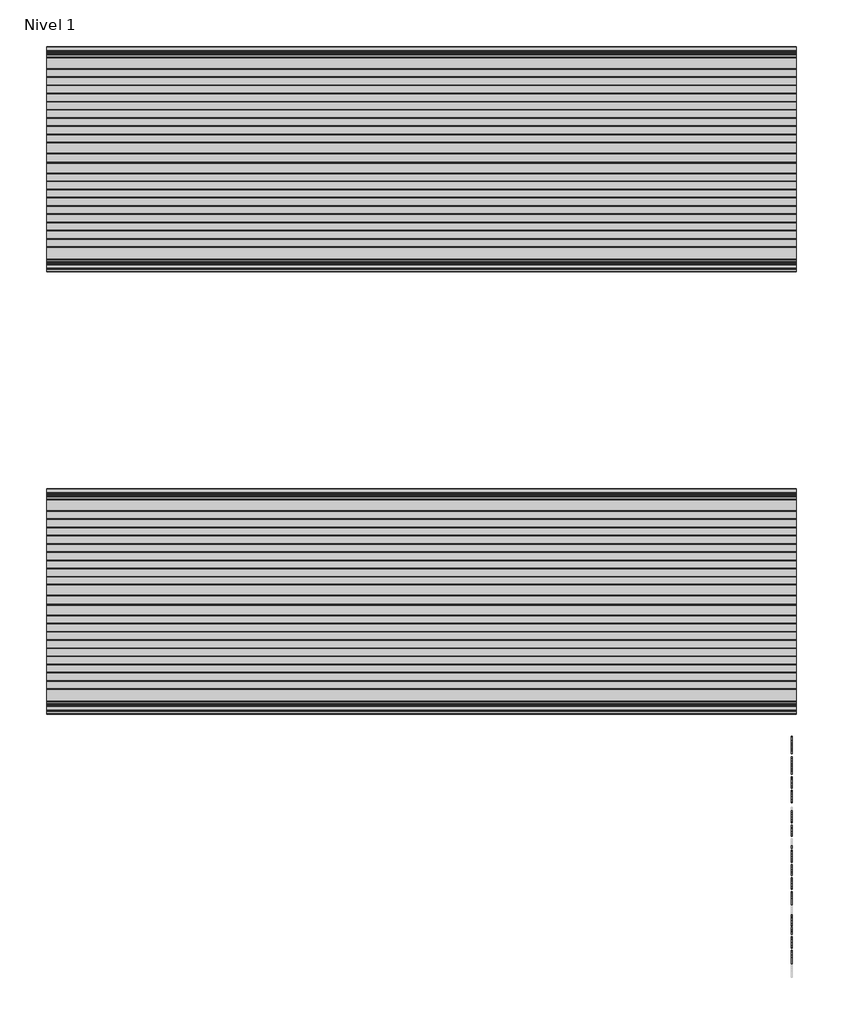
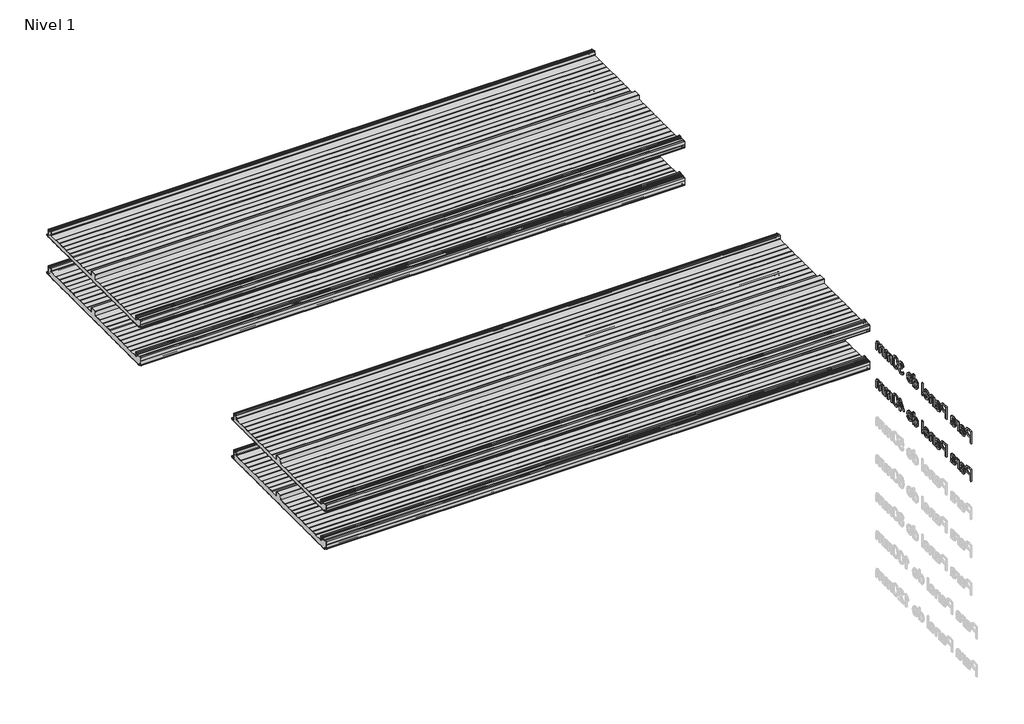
# One storey, part 1 of 3: 4 plates, 2 proxies.
"""IFC4 building model written with IfcOpenShell, lengths in millimetres."""

from ifc_helpers import new_model, si_unit, frame, origin, place, context, project, spatial, polyline, outline, extrude, transform, mapped, element, save
from components import plate_30_mm_228ccd44, plate_40_mm_992aaad9

model = new_model("IFC4")

# Units and contexts
model_context = context("Model", 3, world=origin())
ifc_project = project(units=[si_unit("LENGTHUNIT", "METRE", prefix="MILLI")], contexts=[model_context])

# Site, building, storey
site = spatial("IfcSite", under=ifc_project)
building = spatial("IfcBuilding", under=site)
storey = spatial("IfcBuildingStorey", under=building, Name="Nivel 1", Elevation=0.0)

# Proxies
placement = place(None, origin())
element("IfcBuildingElementProxy", 1, Name="100mm Arial", ObjectType="100mm Arial", at=placement, inside=storey, context=model_context, shape_type="SweptSolid", body=[
    extrude(outline(polyline([(14155.5279909, -67.141573), (14155.5279909, 13.2234751), (14185.3117173, 13.2234751), (14197.3193856, 12.4582805), (14207.0805212, 8.7009791), (14213.4080915, 0.9313114), (14215.801777, -10.026667), (14214.1855488, -19.4984021), (14209.3368641, -27.3906972), (14200.2697992, -32.7176285), (14185.9984303, -34.4932722), (14165.573622, -34.4932722), (14165.573622, -67.141573), (14155.5279909, -67.141573)]), holes=[polyline([(14165.573622, -24.4476412), (14186.5870415, -24.4476412), (14201.3808028, -20.7590111), (14205.756146, -10.3798337), (14203.176067, -2.0607955), (14196.3972281, 2.491131), (14186.351597, 3.1778441), (14165.573622, 3.1778441), (14165.573622, -24.4476412)])]), frame((9557.0230098, 0.0, 0.0), z_axis=(1.0, 0.0, 0.0), x_axis=(0.0, 1.0, 0.0)), (0.0, 0.0, 1.0), 5.0),
    extrude(outline(polyline([(14266.0299321, -59.6073498), (14256.2884169, -66.4156192), (14245.5266422, -68.3972769), (14230.9388949, -63.6295263), (14225.847408, -51.4452746), (14227.7702046, -43.4990235), (14232.8224507, -37.7306338), (14239.8563544, -34.4344111), (14248.5481797, -32.9236424), (14265.971071, -29.4704567), (14266.0299321, -27.2337342), (14263.2634595, -19.8172332), (14252.1583283, -16.913418), (14241.9949751, -18.8460247), (14237.1487429, -25.7033451), (14227.1031119, -24.4476412), (14231.4490246, -14.6374547), (14240.199711, -8.8886854), (14253.453273, -6.8677869), (14265.6277145, -8.6532409), (14272.5046552, -13.1364961), (14275.5850538, -19.9545758), (14276.0755631, -28.7445029), (14276.0755631, -41.2426806), (14276.5856928, -58.6950024), (14278.5869709, -67.141573), (14268.5413399, -67.141573), (14266.0299321, -59.6073498)]), holes=[polyline([(14266.0299321, -39.5160877), (14249.8235039, -42.5964863), (14241.1807296, -44.2249773), (14237.2664652, -46.8737276), (14235.8930391, -50.7389411), (14238.885146, -56.1737845), (14247.6652629, -58.3516459), (14257.8286162, -55.9481502), (14264.3818208, -50.1307096), (14265.971071, -42.3610418), (14266.0299321, -39.5160877)])]), frame((9557.0230098, 0.0, 0.0), z_axis=(1.0, 0.0, 0.0), x_axis=(0.0, 1.0, 0.0)), (0.0, 0.0, 1.0), 5.0),
    extrude(outline(polyline([(14289.8883058, -67.141573), (14289.8883058, -8.1234908), (14298.6782329, -8.1234908), (14298.6782329, -16.8545568), (14304.9175115, -8.8102039), (14311.1960309, -6.8677869), (14321.2809027, -9.9678059), (14317.9258189, -18.9735571), (14310.8624846, -16.913418), (14305.1823866, -18.8950756), (14301.5624277, -24.3887801), (14299.9339368, -36.1217632), (14299.9339368, -67.141573), (14289.8883058, -67.141573)])), frame((9557.0230098, 0.0, 0.0), z_axis=(1.0, 0.0, 0.0), x_axis=(0.0, 1.0, 0.0)), (0.0, 0.0, 1.0), 5.0),
    extrude(outline(polyline([(14365.2305384, -59.6073498), (14355.4890231, -66.4156192), (14344.7272485, -68.3972769), (14330.1395011, -63.6295263), (14325.0480143, -51.4452746), (14326.9708109, -43.4990235), (14332.023057, -37.7306338), (14339.0569607, -34.4344111), (14347.748786, -32.9236424), (14365.1716773, -29.4704567), (14365.2305384, -27.2337342), (14362.4640658, -19.8172332), (14351.3589346, -16.913418), (14341.1955814, -18.8460247), (14336.3493492, -25.7033451), (14326.3037182, -24.4476412), (14330.6496308, -14.6374547), (14339.4003172, -8.8886854), (14352.6538792, -6.8677869), (14364.8283207, -8.6532409), (14371.7052615, -13.1364961), (14374.7856601, -19.9545758), (14375.2761694, -28.7445029), (14375.2761694, -41.2426806), (14375.7862991, -58.6950024), (14377.7875772, -67.141573), (14367.7419461, -67.141573), (14365.2305384, -59.6073498)]), holes=[polyline([(14365.2305384, -39.5160877), (14349.0241102, -42.5964863), (14340.3813359, -44.2249773), (14336.4670715, -46.8737276), (14335.0936453, -50.7389411), (14338.0857522, -56.1737845), (14346.8658692, -58.3516459), (14357.0292224, -55.9481502), (14363.582427, -50.1307096), (14365.1716773, -42.3610418), (14365.2305384, -39.5160877)])]), frame((9557.0230098, 0.0, 0.0), z_axis=(1.0, 0.0, 0.0), x_axis=(0.0, 1.0, 0.0)), (0.0, 0.0, 1.0), 5.0),
    extrude(outline(polyline([(14421.7372128, -67.141573), (14421.7372128, 13.2234751), (14451.5209392, 13.2234751), (14463.5286075, 12.4582805), (14473.2897431, 8.7009791), (14479.6173134, 0.9313114), (14482.0109989, -10.026667), (14480.3947707, -19.4984021), (14475.546086, -27.3906972), (14466.4790211, -32.7176285), (14452.2076522, -34.4932722), (14431.7828439, -34.4932722), (14431.7828439, -67.141573), (14421.7372128, -67.141573)]), holes=[polyline([(14431.7828439, -24.4476412), (14452.7962634, -24.4476412), (14467.5900247, -20.7590111), (14471.9653679, -10.3798337), (14469.3852889, -2.0607955), (14462.60645, 2.491131), (14452.5608189, 3.1778441), (14431.7828439, 3.1778441), (14431.7828439, -24.4476412)])]), frame((9557.0230098, 0.0, 0.0), z_axis=(1.0, 0.0, 0.0), x_axis=(0.0, 1.0, 0.0)), (0.0, 0.0, 1.0), 5.0),
    extrude(outline(polyline([(14532.239154, -59.6073498), (14522.4976388, -66.4156192), (14511.7358641, -68.3972769), (14497.1481168, -63.6295263), (14492.0566299, -51.4452746), (14493.9794265, -43.4990235), (14499.0316726, -37.7306338), (14506.0655763, -34.4344111), (14514.7574016, -32.9236424), (14532.1802929, -29.4704567), (14532.239154, -27.2337342), (14529.4726814, -19.8172332), (14518.3675502, -16.913418), (14508.204197, -18.8460247), (14503.3579648, -25.7033451), (14493.3123338, -24.4476412), (14497.6582465, -14.6374547), (14506.4089329, -8.8886854), (14519.6624949, -6.8677869), (14531.8369364, -8.6532409), (14538.7138771, -13.1364961), (14541.7942757, -19.9545758), (14542.284785, -28.7445029), (14542.284785, -41.2426806), (14542.7949147, -58.6950024), (14544.7961928, -67.141573), (14534.7505618, -67.141573), (14532.239154, -59.6073498)]), holes=[polyline([(14532.239154, -39.5160877), (14516.0327258, -42.5964863), (14507.3899515, -44.2249773), (14503.4756871, -46.8737276), (14502.102261, -50.7389411), (14505.0943679, -56.1737845), (14513.8744848, -58.3516459), (14524.0378381, -55.9481502), (14530.5910427, -50.1307096), (14532.1802929, -42.3610418), (14532.239154, -39.5160877)])]), frame((9557.0230098, 0.0, 0.0), z_axis=(1.0, 0.0, 0.0), x_axis=(0.0, 1.0, 0.0)), (0.0, 0.0, 1.0), 5.0),
    extrude(outline(polyline([(14556.0975277, -67.141573), (14556.0975277, -8.1234908), (14566.1431587, -8.1234908), (14566.1431587, -16.3640475), (14573.8245347, -9.2418521), (14584.3116241, -6.8677869), (14593.7980745, -8.7807733), (14600.2727976, -13.8035888), (14603.2845249, -21.1906593), (14603.814275, -30.902744), (14603.814275, -67.141573), (14593.768644, -67.141573), (14593.768644, -32.2565497), (14592.611042, -23.3685207), (14588.5201942, -18.6694413), (14581.623633, -16.913418), (14570.7245158, -20.8571129), (14567.288498, -26.5715466), (14566.1431587, -35.8274576), (14566.1431587, -67.141573), (14556.0975277, -67.141573)])), frame((9557.0230098, 0.0, 0.0), z_axis=(1.0, 0.0, 0.0), x_axis=(0.0, 1.0, 0.0)), (0.0, 0.0, 1.0), 5.0),
    extrude(outline(polyline([(14658.9475233, -49.5617188), (14668.7969506, -50.8174226), (14659.5851855, -63.7864892), (14642.4271692, -68.3972769), (14630.6402301, -66.4082616), (14621.5707126, -60.4412156), (14615.7876077, -50.8836414), (14613.859906, -38.1230413), (14615.807228, -24.9332455), (14621.6491941, -15.0691029), (14630.5960842, -8.9181159), (14641.8581784, -6.8677869), (14652.7695584, -8.9132108), (14661.4883616, -15.0494825), (14667.2052478, -24.8940047), (14669.1108766, -38.0641801), (14669.0520155, -40.7717916), (14623.905537, -40.7717916), (14629.6837369, -53.8193397), (14642.6233729, -58.3516459), (14652.4728002, -56.252266), (14658.9475233, -49.5617188)]), holes=[polyline([(14623.905537, -30.7261606), (14659.0652456, -30.7261606), (14655.0430691, -21.6223075), (14641.8189376, -16.913418), (14629.4482924, -20.6707194), (14623.905537, -30.7261606)])]), frame((9557.0230098, 0.0, 0.0), z_axis=(1.0, 0.0, 0.0), x_axis=(0.0, 1.0, 0.0)), (0.0, 0.0, 1.0), 5.0),
    extrude(outline(polyline([(9562.0230098, 14689.2021386), (9562.0230098, 14679.1565076), (9557.0230098, 14679.1565076), (9557.0230098, 14689.2021386), (9562.0230098, 14689.2021386)])), frame((0.0, 0.0, -67.141573), z_axis=(0.0, 0.0, 1.0), x_axis=(1.0, 0.0, 0.0)), (0.0, 0.0, 1.0), 80.3650481),
    extrude(outline(polyline([(14772.0785945, -67.141573), (14772.0785945, -57.6649328), (14765.4321931, -65.7141909), (14756.2449534, -68.3972769), (14743.8056369, -64.512443), (14735.0157097, -53.6721869), (14731.8960704, -37.691393), (14734.7704551, -21.700789), (14743.3837989, -10.6937597), (14756.2057127, -6.8677869), (14765.4665288, -9.604829), (14772.0785945, -16.7172142), (14772.0785945, 13.2234751), (14782.1242255, 13.2234751), (14782.1242255, -67.141573), (14772.0785945, -67.141573)]), holes=[polyline([(14741.9417014, -37.6521523), (14746.4740076, -53.201298), (14757.1671109, -58.3516459), (14767.7326819, -53.4367424), (14772.0785945, -38.4173468), (14767.6542004, -22.1128168), (14756.7550831, -16.913418), (14746.179702, -21.9068029), (14741.9417014, -37.6521523)])]), frame((9557.0230098, 0.0, 0.0), z_axis=(1.0, 0.0, 0.0), x_axis=(0.0, 1.0, 0.0)), (0.0, 0.0, 1.0), 5.0),
    extrude(outline(polyline([(14838.5131777, -49.5617188), (14848.362605, -50.8174226), (14839.1508398, -63.7864892), (14821.9928236, -68.3972769), (14810.2058845, -66.4082616), (14801.136367, -60.4412156), (14795.353262, -50.8836414), (14793.4255604, -38.1230413), (14795.3728824, -24.9332455), (14801.2148485, -15.0691029), (14810.1617386, -8.9181159), (14821.4238328, -6.8677869), (14832.3352128, -8.9132108), (14841.054016, -15.0494825), (14846.7709022, -24.8940047), (14848.676531, -38.0641801), (14848.6176699, -40.7717916), (14803.4711914, -40.7717916), (14809.2493913, -53.8193397), (14822.1890273, -58.3516459), (14832.0384546, -56.252266), (14838.5131777, -49.5617188)]), holes=[polyline([(14803.4711914, -30.7261606), (14838.6309, -30.7261606), (14834.6087235, -21.6223075), (14821.384592, -16.913418), (14809.0139468, -20.6707194), (14803.4711914, -30.7261606)])]), frame((9557.0230098, 0.0, 0.0), z_axis=(1.0, 0.0, 0.0), x_axis=(0.0, 1.0, 0.0)), (0.0, 0.0, 1.0), 5.0),
    extrude(outline(polyline([(14887.6033512, -45.7946071), (14897.6489822, -44.5389032), (14903.1917376, -55.1142843), (14913.5611047, -58.3516459), (14925.7649768, -53.8978212), (14930.297283, -42.8711715), (14925.8042175, -32.482184), (14914.3851604, -28.3717158), (14907.3414465, -29.4704567), (14908.4598077, -19.4248257), (14910.0686783, -19.5425479), (14921.4681151, -16.6583531), (14926.5301713, -7.7899445), (14922.8611616, 0.0680149), (14913.4041418, 3.1778441), (14903.8293997, 0.0385844), (14898.9046861, -9.3791947), (14888.859055, -8.1234908), (14897.0799914, 7.6316688), (14913.050975, 13.2234751), (14925.1665554, 10.4668127), (14933.6425566, 2.9325894), (14936.5758024, -7.2013333), (14933.7897094, -16.4621494), (14925.5491527, -23.1134558), (14936.4973209, -29.9805864), (14940.342914, -43.0477549), (14938.4201174, -52.8383211), (14932.6517277, -61.0200166), (14923.9451872, -66.5529618), (14913.207938, -68.3972769), (14903.4958534, -66.822742), (14895.588843, -62.0991372), (14890.0902334, -54.8739348), (14887.6033512, -45.7946071)])), frame((9557.0230098, 0.0, 0.0), z_axis=(1.0, 0.0, 0.0), x_axis=(0.0, 1.0, 0.0)), (0.0, 0.0, 1.0), 5.0),
    extrude(outline(polyline([(14949.1328411, -27.6065213), (14952.0857073, -4.4839116), (14960.856014, 8.8481319), (14975.5026225, 13.2234751), (14987.2356056, 10.6335858), (14995.3388197, 3.1680339), (15000.0477093, -8.7219122), (15001.872404, -27.6065213), (14998.9489684, -50.6310291), (14990.2080922, -63.9925032), (14975.5026225, -68.3972769), (14965.0645841, -66.4842905), (14957.1379533, -60.7453314), (14951.1341192, -47.153318), (14949.1328411, -27.6065213)]), holes=[polyline([(14959.1784721, -27.5869009), (14960.3556945, -43.3886589), (14963.8873617, -52.5342053), (14975.5026225, -58.3516459), (14987.1178834, -52.5145849), (14990.6495506, -43.3641334), (14991.8267729, -27.5869009), (14990.6887913, -12.1407622), (14987.2748464, -2.924092), (14982.0263966, 1.6523601), (14975.3849003, 3.1778441), (14964.0443247, -2.1981381), (14960.3949353, -11.9887043), (14959.1784721, -27.5869009)])]), frame((9557.0230098, 0.0, 0.0), z_axis=(1.0, 0.0, 0.0), x_axis=(0.0, 1.0, 0.0)), (0.0, 0.0, 1.0), 5.0),
    extrude(outline(polyline([(15013.1737388, -67.141573), (15013.1737388, -8.1234908), (15023.2193699, -8.1234908), (15023.2193699, -17.8355755), (15030.1257412, -9.8795142), (15039.9555481, -6.8677869), (15050.0207995, -9.9383753), (15055.5537447, -18.5419089), (15063.3920837, -9.7863174), (15073.290562, -6.8677869), (15086.4264017, -11.7238293), (15091.0273792, -26.6843637), (15091.0273792, -67.141573), (15080.9817482, -67.141573), (15080.9817482, -31.0008458), (15080.0497805, -22.6131363), (15076.6750763, -18.4830478), (15070.9361172, -16.913418), (15061.0572593, -20.9355944), (15057.1233745, -33.8261795), (15057.1233745, -67.141573), (15047.0777435, -67.141573), (15047.0777435, -29.8824846), (15044.7527293, -20.1507795), (15037.1302144, -16.913418), (15029.694093, -19.071659), (15024.749759, -25.3894191), (15023.2193699, -37.3774671), (15023.2193699, -67.141573), (15013.1737388, -67.141573)])), frame((9557.0230098, 0.0, 0.0), z_axis=(1.0, 0.0, 0.0), x_axis=(0.0, 1.0, 0.0)), (0.0, 0.0, 1.0), 5.0),
    extrude(outline(polyline([(15106.0958257, -67.141573), (15106.0958257, -8.1234908), (15116.1414568, -8.1234908), (15116.1414568, -17.8355755), (15123.0478281, -9.8795142), (15132.877635, -6.8677869), (15142.9428864, -9.9383753), (15148.4758316, -18.5419089), (15156.3141706, -9.7863174), (15166.2126488, -6.8677869), (15179.3484886, -11.7238293), (15183.9494661, -26.6843637), (15183.9494661, -67.141573), (15173.9038351, -67.141573), (15173.9038351, -31.0008458), (15172.9718674, -22.6131363), (15169.5971632, -18.4830478), (15163.8582041, -16.913418), (15153.9793462, -20.9355944), (15150.0454614, -33.8261795), (15150.0454614, -67.141573), (15139.9998304, -67.141573), (15139.9998304, -29.8824846), (15137.6748162, -20.1507795), (15130.0523013, -16.913418), (15122.6161799, -19.071659), (15117.6718458, -25.3894191), (15116.1414568, -37.3774671), (15116.1414568, -67.141573), (15106.0958257, -67.141573)])), frame((9557.0230098, 0.0, 0.0), z_axis=(1.0, 0.0, 0.0), x_axis=(0.0, 1.0, 0.0)), (0.0, 0.0, 1.0), 5.0),
])
element("IfcBuildingElementProxy", 2, Name="100mm Arial", ObjectType="100mm Arial", at=placement, inside=storey, context=model_context, shape_type="SweptSolid", body=[
    extrude(outline(polyline([(14155.5279909, -317.141573), (14155.5279909, -236.7765249), (14185.3117173, -236.7765249), (14197.3193856, -237.5417195), (14207.0805212, -241.2990209), (14213.4080915, -249.0686886), (14215.801777, -260.026667), (14214.1855488, -269.4984021), (14209.3368641, -277.3906972), (14200.2697992, -282.7176285), (14185.9984303, -284.4932722), (14165.573622, -284.4932722), (14165.573622, -317.141573), (14155.5279909, -317.141573)]), holes=[polyline([(14165.573622, -274.4476412), (14186.5870415, -274.4476412), (14201.3808028, -270.7590111), (14205.756146, -260.3798337), (14203.176067, -252.0607955), (14196.3972281, -247.508869), (14186.351597, -246.8221559), (14165.573622, -246.8221559), (14165.573622, -274.4476412)])]), frame((9557.0230098, 0.0, 0.0), z_axis=(1.0, 0.0, 0.0), x_axis=(0.0, 1.0, 0.0)), (0.0, 0.0, 1.0), 5.0),
    extrude(outline(polyline([(14266.0299321, -309.6073498), (14256.2884169, -316.4156192), (14245.5266422, -318.3972769), (14230.9388949, -313.6295263), (14225.847408, -301.4452746), (14227.7702046, -293.4990235), (14232.8224507, -287.7306338), (14239.8563544, -284.4344111), (14248.5481797, -282.9236424), (14265.971071, -279.4704567), (14266.0299321, -277.2337342), (14263.2634595, -269.8172332), (14252.1583283, -266.913418), (14241.9949751, -268.8460247), (14237.1487429, -275.7033451), (14227.1031119, -274.4476412), (14231.4490246, -264.6374547), (14240.199711, -258.8886854), (14253.453273, -256.8677869), (14265.6277145, -258.6532409), (14272.5046552, -263.1364961), (14275.5850538, -269.9545758), (14276.0755631, -278.7445029), (14276.0755631, -291.2426806), (14276.5856928, -308.6950024), (14278.5869709, -317.141573), (14268.5413399, -317.141573), (14266.0299321, -309.6073498)]), holes=[polyline([(14266.0299321, -289.5160877), (14249.8235039, -292.5964863), (14241.1807296, -294.2249773), (14237.2664652, -296.8737276), (14235.8930391, -300.7389411), (14238.885146, -306.1737845), (14247.6652629, -308.3516459), (14257.8286162, -305.9481502), (14264.3818208, -300.1307096), (14265.971071, -292.3610418), (14266.0299321, -289.5160877)])]), frame((9557.0230098, 0.0, 0.0), z_axis=(1.0, 0.0, 0.0), x_axis=(0.0, 1.0, 0.0)), (0.0, 0.0, 1.0), 5.0),
    extrude(outline(polyline([(14289.8883058, -317.141573), (14289.8883058, -258.1234908), (14298.6782329, -258.1234908), (14298.6782329, -266.8545568), (14304.9175115, -258.8102039), (14311.1960309, -256.8677869), (14321.2809027, -259.9678059), (14317.9258189, -268.9735571), (14310.8624846, -266.913418), (14305.1823866, -268.8950756), (14301.5624277, -274.3887801), (14299.9339368, -286.1217632), (14299.9339368, -317.141573), (14289.8883058, -317.141573)])), frame((9557.0230098, 0.0, 0.0), z_axis=(1.0, 0.0, 0.0), x_axis=(0.0, 1.0, 0.0)), (0.0, 0.0, 1.0), 5.0),
    extrude(outline(polyline([(14365.2305384, -309.6073498), (14355.4890231, -316.4156192), (14344.7272485, -318.3972769), (14330.1395011, -313.6295263), (14325.0480143, -301.4452746), (14326.9708109, -293.4990235), (14332.023057, -287.7306338), (14339.0569607, -284.4344111), (14347.748786, -282.9236424), (14365.1716773, -279.4704567), (14365.2305384, -277.2337342), (14362.4640658, -269.8172332), (14351.3589346, -266.913418), (14341.1955814, -268.8460247), (14336.3493492, -275.7033451), (14326.3037182, -274.4476412), (14330.6496308, -264.6374547), (14339.4003172, -258.8886854), (14352.6538792, -256.8677869), (14364.8283207, -258.6532409), (14371.7052615, -263.1364961), (14374.7856601, -269.9545758), (14375.2761694, -278.7445029), (14375.2761694, -291.2426806), (14375.7862991, -308.6950024), (14377.7875772, -317.141573), (14367.7419461, -317.141573), (14365.2305384, -309.6073498)]), holes=[polyline([(14365.2305384, -289.5160877), (14349.0241102, -292.5964863), (14340.3813359, -294.2249773), (14336.4670715, -296.8737276), (14335.0936453, -300.7389411), (14338.0857522, -306.1737845), (14346.8658692, -308.3516459), (14357.0292224, -305.9481502), (14363.582427, -300.1307096), (14365.1716773, -292.3610418), (14365.2305384, -289.5160877)])]), frame((9557.0230098, 0.0, 0.0), z_axis=(1.0, 0.0, 0.0), x_axis=(0.0, 1.0, 0.0)), (0.0, 0.0, 1.0), 5.0),
    extrude(outline(polyline([(14421.7372128, -317.141573), (14421.7372128, -236.7765249), (14451.5209392, -236.7765249), (14463.5286075, -237.5417195), (14473.2897431, -241.2990209), (14479.6173134, -249.0686886), (14482.0109989, -260.026667), (14480.3947707, -269.4984021), (14475.546086, -277.3906972), (14466.4790211, -282.7176285), (14452.2076522, -284.4932722), (14431.7828439, -284.4932722), (14431.7828439, -317.141573), (14421.7372128, -317.141573)]), holes=[polyline([(14431.7828439, -274.4476412), (14452.7962634, -274.4476412), (14467.5900247, -270.7590111), (14471.9653679, -260.3798337), (14469.3852889, -252.0607955), (14462.60645, -247.508869), (14452.5608189, -246.8221559), (14431.7828439, -246.8221559), (14431.7828439, -274.4476412)])]), frame((9557.0230098, 0.0, 0.0), z_axis=(1.0, 0.0, 0.0), x_axis=(0.0, 1.0, 0.0)), (0.0, 0.0, 1.0), 5.0),
    extrude(outline(polyline([(14532.239154, -309.6073498), (14522.4976388, -316.4156192), (14511.7358641, -318.3972769), (14497.1481168, -313.6295263), (14492.0566299, -301.4452746), (14493.9794265, -293.4990235), (14499.0316726, -287.7306338), (14506.0655763, -284.4344111), (14514.7574016, -282.9236424), (14532.1802929, -279.4704567), (14532.239154, -277.2337342), (14529.4726814, -269.8172332), (14518.3675502, -266.913418), (14508.204197, -268.8460247), (14503.3579648, -275.7033451), (14493.3123338, -274.4476412), (14497.6582465, -264.6374547), (14506.4089329, -258.8886854), (14519.6624949, -256.8677869), (14531.8369364, -258.6532409), (14538.7138771, -263.1364961), (14541.7942757, -269.9545758), (14542.284785, -278.7445029), (14542.284785, -291.2426806), (14542.7949147, -308.6950024), (14544.7961928, -317.141573), (14534.7505618, -317.141573), (14532.239154, -309.6073498)]), holes=[polyline([(14532.239154, -289.5160877), (14516.0327258, -292.5964863), (14507.3899515, -294.2249773), (14503.4756871, -296.8737276), (14502.102261, -300.7389411), (14505.0943679, -306.1737845), (14513.8744848, -308.3516459), (14524.0378381, -305.9481502), (14530.5910427, -300.1307096), (14532.1802929, -292.3610418), (14532.239154, -289.5160877)])]), frame((9557.0230098, 0.0, 0.0), z_axis=(1.0, 0.0, 0.0), x_axis=(0.0, 1.0, 0.0)), (0.0, 0.0, 1.0), 5.0),
    extrude(outline(polyline([(14556.0975277, -317.141573), (14556.0975277, -258.1234908), (14566.1431587, -258.1234908), (14566.1431587, -266.3640475), (14573.8245347, -259.2418521), (14584.3116241, -256.8677869), (14593.7980745, -258.7807733), (14600.2727976, -263.8035888), (14603.2845249, -271.1906593), (14603.814275, -280.902744), (14603.814275, -317.141573), (14593.768644, -317.141573), (14593.768644, -282.2565497), (14592.611042, -273.3685207), (14588.5201942, -268.6694413), (14581.623633, -266.913418), (14570.7245158, -270.8571129), (14567.288498, -276.5715466), (14566.1431587, -285.8274576), (14566.1431587, -317.141573), (14556.0975277, -317.141573)])), frame((9557.0230098, 0.0, 0.0), z_axis=(1.0, 0.0, 0.0), x_axis=(0.0, 1.0, 0.0)), (0.0, 0.0, 1.0), 5.0),
    extrude(outline(polyline([(14658.9475233, -299.5617188), (14668.7969506, -300.8174226), (14659.5851855, -313.7864892), (14642.4271692, -318.3972769), (14630.6402301, -316.4082616), (14621.5707126, -310.4412156), (14615.7876077, -300.8836414), (14613.859906, -288.1230413), (14615.807228, -274.9332455), (14621.6491941, -265.0691029), (14630.5960842, -258.9181159), (14641.8581784, -256.8677869), (14652.7695584, -258.9132108), (14661.4883616, -265.0494825), (14667.2052478, -274.8940047), (14669.1108766, -288.0641801), (14669.0520155, -290.7717916), (14623.905537, -290.7717916), (14629.6837369, -303.8193397), (14642.6233729, -308.3516459), (14652.4728002, -306.252266), (14658.9475233, -299.5617188)]), holes=[polyline([(14623.905537, -280.7261606), (14659.0652456, -280.7261606), (14655.0430691, -271.6223075), (14641.8189376, -266.913418), (14629.4482924, -270.6707194), (14623.905537, -280.7261606)])]), frame((9557.0230098, 0.0, 0.0), z_axis=(1.0, 0.0, 0.0), x_axis=(0.0, 1.0, 0.0)), (0.0, 0.0, 1.0), 5.0),
    extrude(outline(polyline([(9562.0230098, 14689.2021386), (9562.0230098, 14679.1565076), (9557.0230098, 14679.1565076), (9557.0230098, 14689.2021386), (9562.0230098, 14689.2021386)])), frame((0.0, 0.0, -317.141573), z_axis=(0.0, 0.0, 1.0), x_axis=(1.0, 0.0, 0.0)), (0.0, 0.0, 1.0), 80.3650481),
    extrude(outline(polyline([(14772.0785945, -317.141573), (14772.0785945, -307.6649328), (14765.4321931, -315.7141909), (14756.2449534, -318.3972769), (14743.8056369, -314.512443), (14735.0157097, -303.6721869), (14731.8960704, -287.691393), (14734.7704551, -271.700789), (14743.3837989, -260.6937597), (14756.2057127, -256.8677869), (14765.4665288, -259.604829), (14772.0785945, -266.7172142), (14772.0785945, -236.7765249), (14782.1242255, -236.7765249), (14782.1242255, -317.141573), (14772.0785945, -317.141573)]), holes=[polyline([(14741.9417014, -287.6521523), (14746.4740076, -303.201298), (14757.1671109, -308.3516459), (14767.7326819, -303.4367424), (14772.0785945, -288.4173468), (14767.6542004, -272.1128168), (14756.7550831, -266.913418), (14746.179702, -271.9068029), (14741.9417014, -287.6521523)])]), frame((9557.0230098, 0.0, 0.0), z_axis=(1.0, 0.0, 0.0), x_axis=(0.0, 1.0, 0.0)), (0.0, 0.0, 1.0), 5.0),
    extrude(outline(polyline([(14838.5131777, -299.5617188), (14848.362605, -300.8174226), (14839.1508398, -313.7864892), (14821.9928236, -318.3972769), (14810.2058845, -316.4082616), (14801.136367, -310.4412156), (14795.353262, -300.8836414), (14793.4255604, -288.1230413), (14795.3728824, -274.9332455), (14801.2148485, -265.0691029), (14810.1617386, -258.9181159), (14821.4238328, -256.8677869), (14832.3352128, -258.9132108), (14841.054016, -265.0494825), (14846.7709022, -274.8940047), (14848.676531, -288.0641801), (14848.6176699, -290.7717916), (14803.4711914, -290.7717916), (14809.2493913, -303.8193397), (14822.1890273, -308.3516459), (14832.0384546, -306.252266), (14838.5131777, -299.5617188)]), holes=[polyline([(14803.4711914, -280.7261606), (14838.6309, -280.7261606), (14834.6087235, -271.6223075), (14821.384592, -266.913418), (14809.0139468, -270.6707194), (14803.4711914, -280.7261606)])]), frame((9557.0230098, 0.0, 0.0), z_axis=(1.0, 0.0, 0.0), x_axis=(0.0, 1.0, 0.0)), (0.0, 0.0, 1.0), 5.0),
    extrude(outline(polyline([(14920.251652, -317.141573), (14920.251652, -298.3060149), (14883.8362395, -298.3060149), (14883.8362395, -288.2603839), (14922.7630597, -238.0322288), (14930.297283, -238.0322288), (14930.297283, -288.2603839), (14940.342914, -288.2603839), (14940.342914, -298.3060149), (14930.297283, -298.3060149), (14930.297283, -317.141573), (14920.251652, -317.141573)]), holes=[polyline([(14920.251652, -288.2603839), (14920.251652, -257.2209537), (14896.1970746, -288.2603839), (14920.251652, -288.2603839)])]), frame((9557.0230098, 0.0, 0.0), z_axis=(1.0, 0.0, 0.0), x_axis=(0.0, 1.0, 0.0)), (0.0, 0.0, 1.0), 5.0),
    extrude(outline(polyline([(14949.1328411, -277.6065213), (14952.0857073, -254.4839116), (14960.856014, -241.1518681), (14975.5026225, -236.7765249), (14987.2356056, -239.3664142), (14995.3388197, -246.8319661), (15000.0477093, -258.7219122), (15001.872404, -277.6065213), (14998.9489684, -300.6310291), (14990.2080922, -313.9925032), (14975.5026225, -318.3972769), (14965.0645841, -316.4842905), (14957.1379533, -310.7453314), (14951.1341192, -297.153318), (14949.1328411, -277.6065213)]), holes=[polyline([(14959.1784721, -277.5869009), (14960.3556945, -293.3886589), (14963.8873617, -302.5342053), (14975.5026225, -308.3516459), (14987.1178834, -302.5145849), (14990.6495506, -293.3641334), (14991.8267729, -277.5869009), (14990.6887913, -262.1407622), (14987.2748464, -252.924092), (14982.0263966, -248.3476399), (14975.3849003, -246.8221559), (14964.0443247, -252.1981381), (14960.3949353, -261.9887043), (14959.1784721, -277.5869009)])]), frame((9557.0230098, 0.0, 0.0), z_axis=(1.0, 0.0, 0.0), x_axis=(0.0, 1.0, 0.0)), (0.0, 0.0, 1.0), 5.0),
    extrude(outline(polyline([(15013.1737388, -317.141573), (15013.1737388, -258.1234908), (15023.2193699, -258.1234908), (15023.2193699, -267.8355755), (15030.1257412, -259.8795142), (15039.9555481, -256.8677869), (15050.0207995, -259.9383753), (15055.5537447, -268.5419089), (15063.3920837, -259.7863174), (15073.290562, -256.8677869), (15086.4264017, -261.7238293), (15091.0273792, -276.6843637), (15091.0273792, -317.141573), (15080.9817482, -317.141573), (15080.9817482, -281.0008458), (15080.0497805, -272.6131363), (15076.6750763, -268.4830478), (15070.9361172, -266.913418), (15061.0572593, -270.9355944), (15057.1233745, -283.8261795), (15057.1233745, -317.141573), (15047.0777435, -317.141573), (15047.0777435, -279.8824846), (15044.7527293, -270.1507795), (15037.1302144, -266.913418), (15029.694093, -269.071659), (15024.749759, -275.3894191), (15023.2193699, -287.3774671), (15023.2193699, -317.141573), (15013.1737388, -317.141573)])), frame((9557.0230098, 0.0, 0.0), z_axis=(1.0, 0.0, 0.0), x_axis=(0.0, 1.0, 0.0)), (0.0, 0.0, 1.0), 5.0),
    extrude(outline(polyline([(15106.0958257, -317.141573), (15106.0958257, -258.1234908), (15116.1414568, -258.1234908), (15116.1414568, -267.8355755), (15123.0478281, -259.8795142), (15132.877635, -256.8677869), (15142.9428864, -259.9383753), (15148.4758316, -268.5419089), (15156.3141706, -259.7863174), (15166.2126488, -256.8677869), (15179.3484886, -261.7238293), (15183.9494661, -276.6843637), (15183.9494661, -317.141573), (15173.9038351, -317.141573), (15173.9038351, -281.0008458), (15172.9718674, -272.6131363), (15169.5971632, -268.4830478), (15163.8582041, -266.913418), (15153.9793462, -270.9355944), (15150.0454614, -283.8261795), (15150.0454614, -317.141573), (15139.9998304, -317.141573), (15139.9998304, -279.8824846), (15137.6748162, -270.1507795), (15130.0523013, -266.913418), (15122.6161799, -269.071659), (15117.6718458, -275.3894191), (15116.1414568, -287.3774671), (15116.1414568, -317.141573), (15106.0958257, -317.141573)])), frame((9557.0230098, 0.0, 0.0), z_axis=(1.0, 0.0, 0.0), x_axis=(0.0, 1.0, 0.0)), (0.0, 0.0, 1.0), 5.0),
])

# Plates
plate_30_mm_shape = plate_30_mm_228ccd44(model_context)
element("IfcPlate", 3, ObjectType="HIANSA PANEL - H20.F01.002-PANELES DE CUBIERTA CON TAPAJUNTA - CUB 3GR - Panel de Muro Cortina : 30 mm", at=placement, inside=storey, context=model_context, shape_type="MappedRepresentation", body=[
    mapped(plate_30_mm_shape, transform((9579.0356399, 17798.3330794, -29.5962409), x_axis=(0.0, -1.0, 0.0), y_axis=(0.0, 0.0, 1.0), z_axis=(-1.0, 0.0, 0.0))),
])
element("IfcPlate", 4, ObjectType="HIANSA PANEL - H20.F01.002-PANELES DE CUBIERTA CON TAPAJUNTA - CUB 3GR - Panel de Muro Cortina : 30 mm", at=placement, inside=storey, context=model_context, shape_type="MappedRepresentation", body=[
    mapped(plate_30_mm_shape, transform((9579.0356399, 15798.3330794, -29.5962409), x_axis=(0.0, -1.0, 0.0), y_axis=(0.0, 0.0, 1.0), z_axis=(-1.0, 0.0, 0.0))),
])
plate_40_mm_shape = plate_40_mm_992aaad9(model_context)
element("IfcPlate", 5, ObjectType="HIANSA PANEL - H20.F01.002-PANELES DE CUBIERTA CON TAPAJUNTA - CUB 3GR - Panel de Muro Cortina : 40 mm", at=placement, inside=storey, context=model_context, shape_type="MappedRepresentation", body=[
    mapped(plate_40_mm_shape, transform((9579.0356399, 17798.3330794, -279.5962409), x_axis=(0.0, -1.0, 0.0), y_axis=(0.0, 0.0, 1.0), z_axis=(-1.0, 0.0, 0.0))),
])
element("IfcPlate", 6, ObjectType="HIANSA PANEL - H20.F01.002-PANELES DE CUBIERTA CON TAPAJUNTA - CUB 3GR - Panel de Muro Cortina : 40 mm", at=placement, inside=storey, context=model_context, shape_type="MappedRepresentation", body=[
    mapped(plate_40_mm_shape, transform((9579.0356399, 15798.3330794, -279.5962409), x_axis=(0.0, -1.0, 0.0), y_axis=(0.0, 0.0, 1.0), z_axis=(-1.0, 0.0, 0.0))),
])

save(model, "model.ifc")
